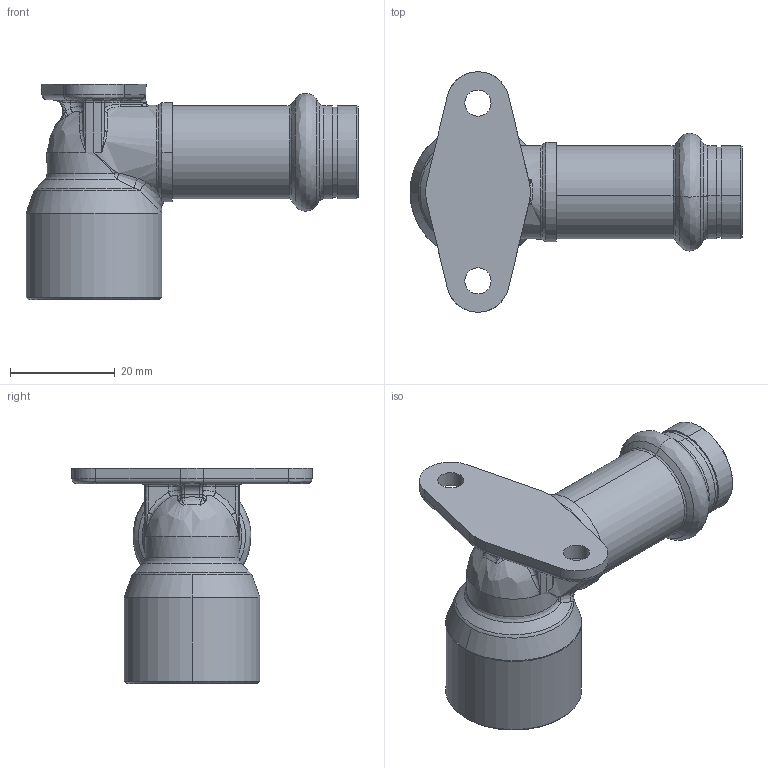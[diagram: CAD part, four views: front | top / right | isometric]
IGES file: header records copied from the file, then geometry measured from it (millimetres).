
Start section: Elysium IGES Interface
Global section: file name: F:\3d modellen sudo\S-Pr VP\SP6471GV\6471GVW1512.igs; native system: CoCreate Modeling 17.00A  17-Jun-2010; preprocessor: CoCreate IGES_3D V2.2; author: Unknown; organization: Unknown; date: 20130129.095811; units: millimetre
Bounding box: 63.5 x 46 x 41.2 mm (x, y, z)
Volume: 13683.4 mm3; surface area: 10830.6 mm2
Topology: 1 solids, 5 shells, 201 faces, 462 edges, 262 vertices
Faces by surface type: bspline 201
